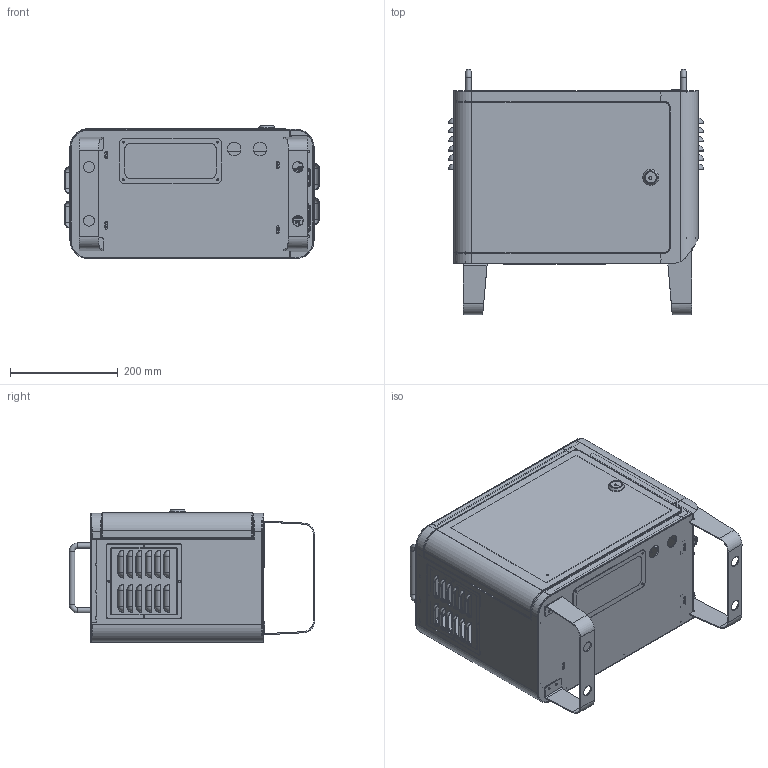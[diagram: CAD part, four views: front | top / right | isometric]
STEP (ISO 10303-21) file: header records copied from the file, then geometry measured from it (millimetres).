
FILE_DESCRIPTION(/* description */ (''),/* implementation_level */ '2;1');
FILE_NAME(/* name */ '',/* time_stamp */ '2023-01-26T17:51:08+09:00',/* author */ ('ajm08'),/* organization */ (''),/* preprocessor_version */ 'ST-DEVELOPER v19.2',/* originating_system */ 'Autodesk Inventor 2023',/* authorisation */ '');
FILE_SCHEMA (('AUTOMOTIVE_DESIGN { 1 0 10303 214 3 1 1 }'));
Products named in the file (3): CB04,CB05_스탠드제어반; CB04,CB05_아우터 조립체; CB04,CB05_이너조립체
Assembly tree (2 placements, depth 2):
  CB04,CB05_스탠드제어반
    CB04,CB05_아우터 조립체
    CB04,CB05_이너조립체
Bounding box: 474 x 456.2 x 247.1 mm (x, y, z)
Volume: 11171579.1 mm3; surface area: 2193430.9 mm2
Topology: 31 solids, 42 shells, 4420 faces, 11784 edges, 7597 vertices
Faces by surface type: plane 2419, cylinder 1187, bspline 391, torus 161, cone 158, sphere 104
Full cylindrical faces by diameter (mm): 1.5 x10, 1.6 x4, 1.7 x20, 1.8 x1, 2 x4, 2.5 x27, 2.6 x11, 2.8 x2, 2.9 x2, 3 x6, 3.1 x10, 3.3 x20, 3.4 x4, 3.5 x12, 3.6 x11, 4 x6, 4.2 x4, 4.5 x2, 5 x36, 5.2 x1, 5.5 x8, 5.6 x4, 6 x1, 6.4 x6, 9 x4, 10 x7, 13 x1, 16 x2, 16.5 x1, 17.5 x1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
Entity records: 174867 total; most frequent: CARTESIAN_POINT 60793, ORIENTED_EDGE 23392, DIRECTION 21835, EDGE_CURVE 11696, VERTEX_POINT 7596, LINE 7381, VECTOR 7381, AXIS2_PLACEMENT_3D 7227
